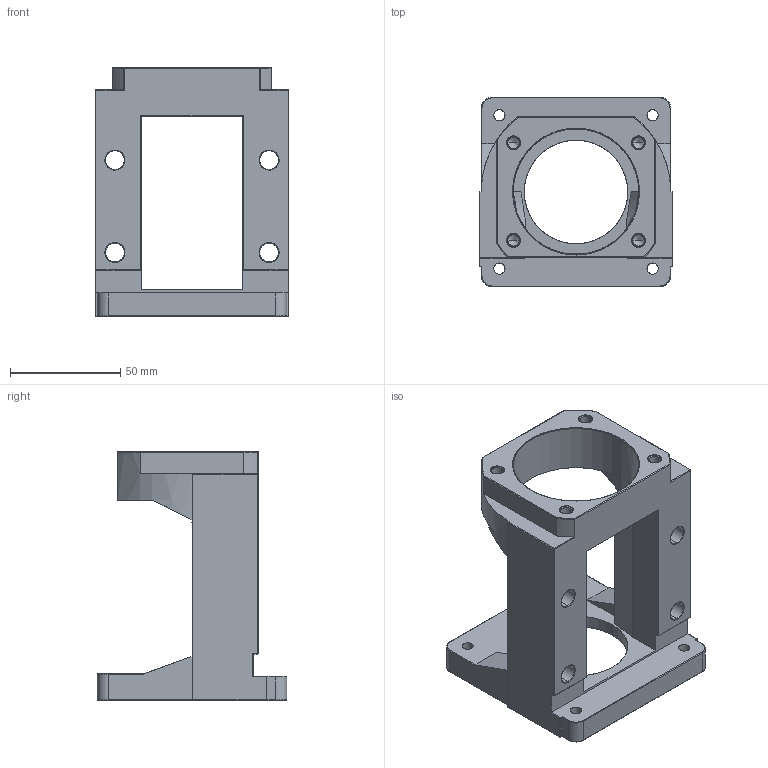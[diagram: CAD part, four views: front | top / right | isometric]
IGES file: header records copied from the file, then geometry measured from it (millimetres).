
Start section: SolidWorks IGES file using analytic representation for surfaces
Bounding box: 88 x 86 x 113 mm (x, y, z)
Surface area: 50969.5 mm2 (no closed solid volume)
Topology: 0 solids, 0 shells, 218 faces, 2508 edges, 2488 vertices
Faces by surface type: revolution 132, bspline 86
